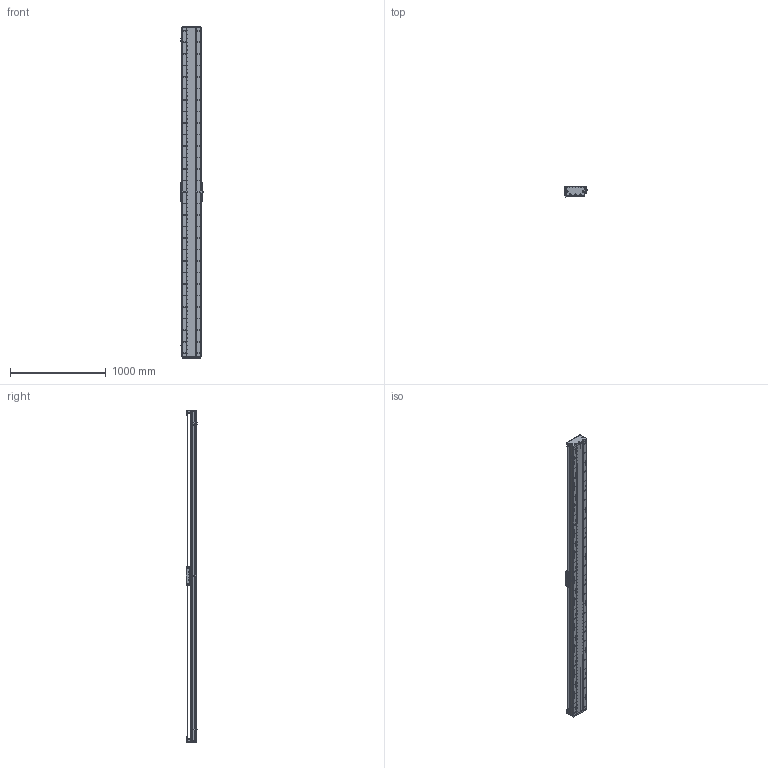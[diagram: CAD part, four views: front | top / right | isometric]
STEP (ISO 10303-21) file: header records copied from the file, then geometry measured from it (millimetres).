
FILE_DESCRIPTION (( 'STEP AP203' ), '1' );
FILE_NAME ('DA-C195-C2-T3180-C010-0.2 眻盄萇儂.STEP', '2025-08-15T01:18:19', ( '' ), ( '' ), 'SwSTEP 2.0', 'SolidWorks 2019', '' );
FILE_SCHEMA (( 'CONFIG_CONTROL_DESIGN' ));
Length unit declared in the file: millimetre
Products named in the file (15): 葩璃 DA95-GT-T-00; DA-C195-GD-DB-H-00 傷啣; DA-C195-C2-T3180-C010-0.2 眻盄萇儂; CU195-C2賑輸-俋楷; DA195詩湍嶺輸; PM-T45ㄗ侂狟ㄘ; DA165-GYP-00 光电感应片(默认); IU-CU195-L-00 菁釱(L3420); LMT黍杅芛; DA195詩湍菜輸; DA95-HXJ-00 遣喳砎蝶; DA195詩湍裔啣; IU-CU195-L 菁釱絳寢; MS200 棠掑喜S315-T1740; DA195詩湍郪璃
Assembly tree (29 placements, depth 3):
  DA-C195-C2-T3180-C010-0.2 眻盄萇儂
    DA195詩湍郪璃
      DA195詩湍菜輸  x2
      DA195詩湍裔啣
      DA195詩湍嶺輸  x2
      DA95-HXJ-00 遣喳砎蝶  x8
      DA-C195-GD-DB-H-00 傷啣  x2
    IU-CU195-L 菁釱絳寢
      IU-CU195-L-00 菁釱(L3420)
      葩璃 DA95-GT-T-00  x4
    LMT黍杅芛
    MS200 棠掑喜S315-T1740
    PM-T45ㄗ侂狟ㄘ  x3
    DA165-GYP-00 光电感应片(默认)
    CU195-C2賑輸-俋楷
Bounding box: 248 x 115.45 x 3460 mm (x, y, z)
Volume: 19274323.4 mm3; surface area: 5757195.3 mm2
Topology: 66 solids, 130 shells, 4744 faces, 13627 edges, 8631 vertices
Faces by surface type: cylinder 2711, plane 1415, cone 530, torus 52, sphere 36
Entity records: 159091 total; most frequent: CARTESIAN_POINT 45518, ORIENTED_EDGE 24138, DIRECTION 22616, EDGE_CURVE 12069, AXIS2_PLACEMENT_3D 8517, VERTEX_POINT 7833, LINE 5582, VECTOR 5582
